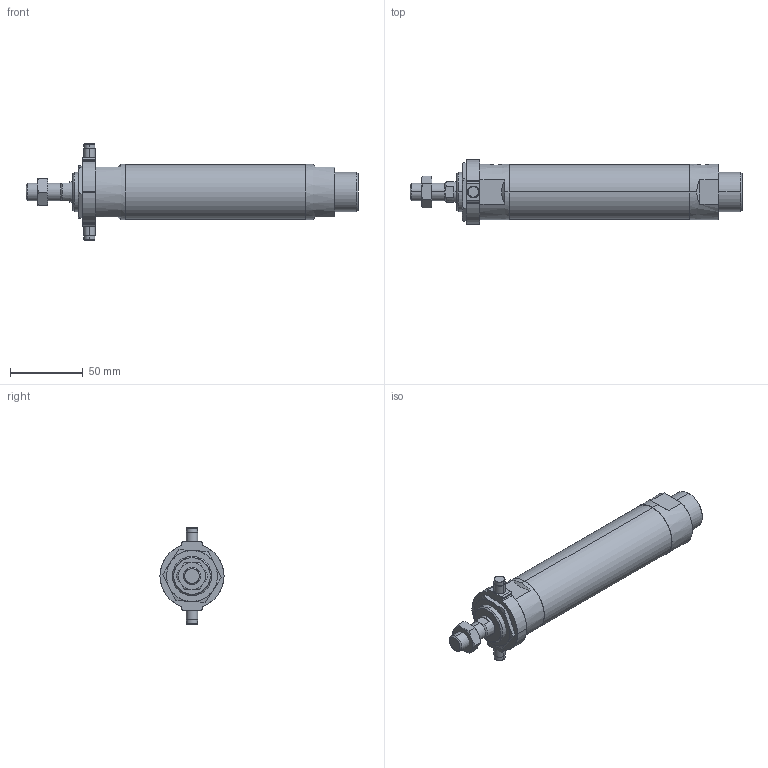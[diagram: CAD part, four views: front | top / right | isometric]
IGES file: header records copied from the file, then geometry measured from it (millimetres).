
Start section: SolidWorks IGES file using analytic representation for surfaces
Global section: file name: C:\Users\Toshiba\Desktop\J#2-32-75-T.IGS; native system: SolidWorks 2014; preprocessor: SolidWorks 2014; author: Toshiba; date: 160308.153543; units: millimetre
Bounding box: 228 x 44 x 66 mm (x, y, z)
Surface area: 34050.1 mm2 (no closed solid volume)
Topology: 0 solids, 0 shells, 133 faces, 2156 edges, 2152 vertices
Faces by surface type: bspline 67, revolution 66
